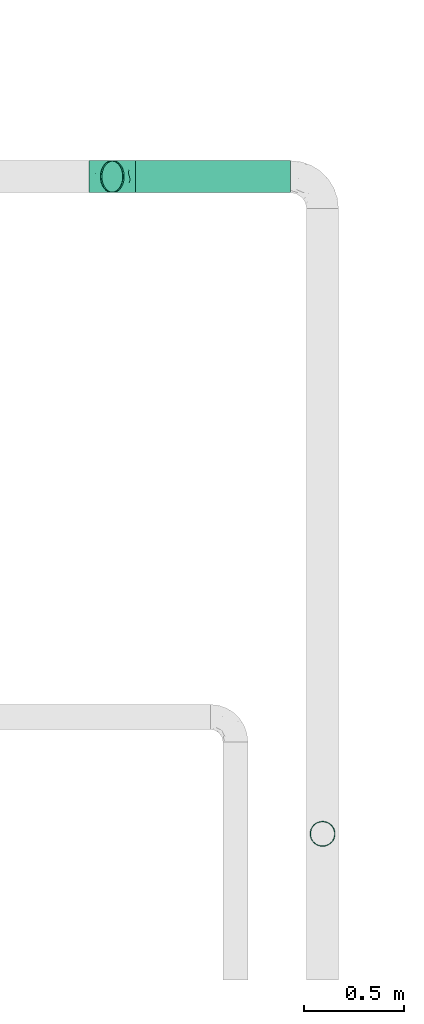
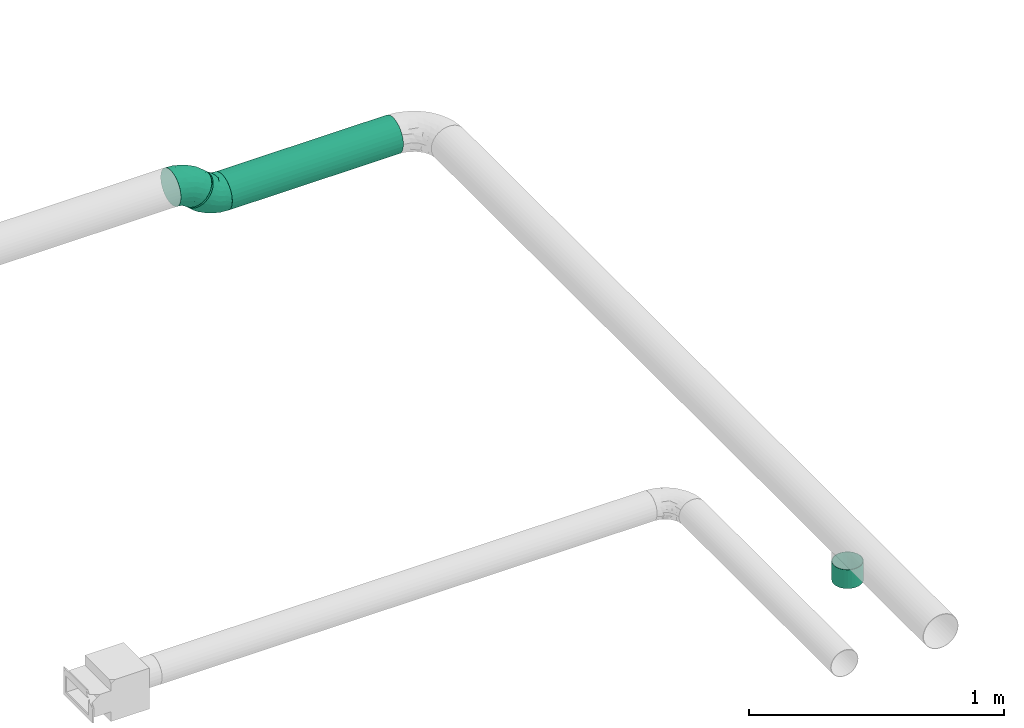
# One storey, part 2 of 10: 3 flow segments, 2 flow fittings.
"""IFC2X3 building model written with IfcOpenShell, lengths in millimetres."""

from ifc_helpers import new_model, entity, si_unit, converted_unit, derived_unit, direction, frame, origin_with_axes, origin_2d_with_axis, place, context, subcontext, project, spatial, hollow_circle, extrude, open_shell, surface_model, source, transform, mapped, type_object, element, save


model = new_model("IFC2X3")

# Units and contexts
model_context = context("Model", 3, precision=0.01, world=frame((0.0, 4.29681676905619e-09, 0.0)), true_north=direction((4.01073788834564e-13, 1.0)))
plan_context = context("Plan", 3, precision=0.01, world=frame((0.0, 4.29681676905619e-09, 0.0)), true_north=direction((4.01073788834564e-13, 1.0)))
body_context = subcontext(model_context, "Body", "Model", "MODEL_VIEW")
ifc_project = project(units=[converted_unit("PLANEANGLEUNIT", "DEGREE", entity("IfcPositiveLengthMeasure", 0.0174532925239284), si_unit("PLANEANGLEUNIT", "RADIAN"), dimensions=[0, 0, 0, 0, 0, 0, 0]), si_unit("AREAUNIT", "SQUARE_METRE"), si_unit("LENGTHUNIT", "METRE", prefix="MILLI"), si_unit("MASSUNIT", "GRAM", prefix="KILO"), si_unit("POWERUNIT", "WATT"), si_unit("PRESSUREUNIT", "PASCAL"), si_unit("FORCEUNIT", "NEWTON", prefix="KILO"), si_unit("ELECTRICCURRENTUNIT", "AMPERE"), si_unit("THERMODYNAMICTEMPERATUREUNIT", "DEGREE_CELSIUS"), si_unit("TIMEUNIT", "SECOND"), si_unit("VOLUMEUNIT", "CUBIC_METRE"), derived_unit("LINEARVELOCITYUNIT", [(si_unit("LENGTHUNIT", "METRE"), 1), (si_unit("TIMEUNIT", "SECOND"), -1)]), derived_unit("VOLUMETRICFLOWRATEUNIT", [(si_unit("VOLUMEUNIT", "CUBIC_METRE"), 1), (si_unit("TIMEUNIT", "SECOND"), -1)]), derived_unit("THERMALTRANSMITTANCEUNIT", [(si_unit("POWERUNIT", "WATT"), 1), (si_unit("THERMODYNAMICTEMPERATUREUNIT", "KELVIN"), -1), (si_unit("AREAUNIT", "SQUARE_METRE"), -1)])], contexts=[model_context, plan_context])

# Site, building, storey
site_placement = place(None, frame((0.0, -4.29681676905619e-09, 0.0), z_axis=(0.0, 0.0, 1.0), x_axis=(1.0, 0.0, 0.0)))
site = spatial("IfcSite", under=ifc_project, at=site_placement, CompositionType="ELEMENT")
building_placement = place(site_placement, frame((0.0, 4.29681676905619e-09, 0.0), z_axis=(0.0, 0.0, 1.0), x_axis=(1.0, 0.0, 0.0)))
building = spatial("IfcBuilding", under=site, at=building_placement, Name="mc-building", CompositionType="ELEMENT")
storey_placement = place(building_placement, frame((0.0, 0.0, 200300.0), z_axis=(0.0, 0.0, 1.0), x_axis=(1.0, 0.0, 0.0)))
storey = spatial("IfcBuildingStorey", under=building, at=storey_placement, Name="Nivå C", CompositionType="ELEMENT", Elevation=200300.0)

# Flow fittings
duct_fitting_type = type_object("IfcDuctFittingType", Name="magicirc_elbow_full_radius_001", PredefinedType="BEND")
shared_shape_1 = source(origin_with_axes(), body_context, "Body", "SurfaceModel", [
    surface_model("IfcShellBasedSurfaceModel", [(-66.27417, 20.70552, -77.27406), (-66.27417, 0.0, -80.0), (-66.27417, 56.56854, -56.56854), (-66.27417, 40.0, -69.28203), (-66.27417, 77.27406, -20.70552), (-66.27417, 69.28203, -40.0), (-66.27417, -56.56854, -56.56854), (-66.27417, -80.0, 0.0), (-66.27417, 69.28203, 40.0), (-66.27417, -40.0, -69.28203), (-66.27417, -20.70552, -77.27406), (-66.27417, -77.27406, -20.70552), (-66.27417, -69.28203, -40.0), (-66.27417, 80.0, 0.0), (-66.27417, 77.27406, 20.70552), (-66.27417, 20.70552, 77.27406), (-66.27417, 40.0, 69.28203), (-66.27417, 56.56854, 56.56854), (-66.27417, -56.56854, 56.56854), (-66.27417, -77.27406, 20.70552), (-66.27417, -69.28203, 40.0), (-66.27417, -40.0, 69.28203), (-66.27417, -20.70552, 77.27406), (-66.27417, 0.0, 80.0), (6.86292, 86.86291, -56.56854), (32.2219, 61.50393, -77.27406), (18.57864, 75.14718, -69.28203), (61.50393, 32.2219, -77.27406), (86.86291, 6.86292, -56.56854), (75.14718, 18.57864, -69.28203), (46.86291, 46.86291, -80.0), (95.85271, -2.12688, -40.0), (103.43146, -9.70563, 0.0), (101.50393, -7.7781, -20.70552), (18.57864, 75.14718, 69.28203), (32.2219, 61.50393, 77.27406), (-2.12688, 95.85271, 40.0), (6.86292, 86.86291, 56.56854), (86.86291, 6.86292, 56.56854), (61.50393, 32.2219, 77.27406), (75.14718, 18.57864, 69.28203), (46.86291, 46.86291, 80.0), (20.53801, -49.58315, 43.94225), (-18.89135, -45.75701, 61.51799), (-28.1118, -61.70391, 46.68644), (-34.33916, -76.37202, 15.31927), (-19.45249, -75.38847, 0.0), (42.93526, 1.14729, 72.97961), (-31.17107, -29.54855, 72.97961), (8.44431, -20.38638, 71.81588), (-32.22322, 32.65541, 74.8719), (-25.21463, -8.32436, 78.89345), (-7.39188, 17.84557, 79.76455), (-39.53449, 10.89577, 79.54534), (20.25064, 35.65958, 79.54534), (95.85271, -2.12688, 40.0), (63.5093, -23.75321, 46.68644), (-15.37255, -69.57828, 27.42176), (-47.4808, 49.0718, 64.37855), (-4.72632, -70.89373, 12.88112), (23.62666, -58.07001, 25.35922), (-37.02413, 66.40501, 50.62929), (-32.89771, 79.42211, 33.20568), (-30.75019, 86.28851, 16.99044), (14.0857, -34.0059, 62.45761), (45.71329, -18.99689, 61.51799), (-22.57689, 54.50543, 65.58295), (69.34551, -36.41796, 14.42051), (60.06931, -38.32924, 27.42176), (45.5871, -51.14622, 12.93716), (-1.12501, 68.27299, 64.37855), (101.50393, -7.7781, 20.70552), (23.71565, 11.94322, 78.89345), (1.50068, 47.12305, 74.81246), (-7.7781, 101.50393, 20.70552), (-13.79239, 73.20024, 54.49623), (-35.65949, 86.08964, 0.0), (-9.70563, 103.43146, 0.0), (25.56985, -61.73109, 0.0), (67.06269, -39.5527, 0.0), (-25.21463, -8.32436, -78.89345), (60.06931, -38.32924, -27.42176), (78.28463, -29.72172, -15.31927), (53.47145, -46.78742, -12.88112), (23.71565, 11.94322, -78.89345), (-39.53449, 10.89577, -79.54534), (-42.0077, 61.51307, -54.49623), (-32.89772, 79.42211, -33.20568), (45.71329, -18.99689, -61.51799), (-20.77542, 73.13545, -50.62928), (-39.27153, 82.75886, -16.99044), (-0.30561, 45.87612, -74.8719), (-23.28329, -74.78606, -14.42051), (-15.37255, -69.57828, -27.42176), (3.93089, -68.40079, -12.93716), (-34.38217, 32.25989, -74.81247), (-18.89135, -45.75701, -61.51799), (-28.1118, -61.70391, -46.68644), (8.44432, -20.38638, -71.81588), (-22.57689, 54.50543, -65.58295), (-47.4808, 49.0718, -64.37855), (24.35512, -57.76827, -25.35922), (-7.39188, 17.84557, -79.76455), (14.0857, -34.0059, -62.45761), (20.53801, -49.58315, -43.94225), (-31.17107, -29.54855, -72.97961), (-7.7781, 101.50393, -20.70552), (-2.12688, 95.85271, -40.0), (-1.12501, 68.27299, -64.37855), (20.25064, 35.65958, -79.54534), (42.93526, 1.14729, -72.97961), (63.5093, -23.75321, -46.68644)], [open_shell([[[0, 1, 2]], [[3, 0, 2]], [[4, 5, 2]], [[6, 2, 1]], [[2, 7, 8]], [[9, 6, 10]], [[6, 1, 10]], [[11, 7, 12]], [[6, 12, 7]], [[6, 7, 2]], [[13, 4, 2]], [[8, 14, 13]], [[7, 15, 8]], [[8, 15, 16]], [[17, 8, 16]], [[18, 15, 7]], [[19, 20, 7]], [[7, 20, 18]], [[21, 22, 18]], [[22, 15, 18]], [[15, 22, 23]], [[8, 13, 2]], [[24, 25, 26]], [[27, 28, 29]], [[27, 30, 28]], [[31, 32, 33]], [[34, 35, 36]], [[34, 36, 37]], [[38, 39, 40]], [[41, 39, 35]], [[42, 43, 44]], [[45, 7, 46]], [[40, 39, 47]], [[21, 18, 43]], [[48, 43, 49]], [[44, 43, 18]], [[16, 15, 50]], [[22, 21, 48]], [[51, 52, 53]], [[41, 35, 54]], [[55, 38, 56]], [[23, 22, 51]], [[19, 45, 57]], [[17, 16, 58]], [[57, 59, 60]], [[8, 61, 62]], [[15, 23, 53]], [[57, 45, 59]], [[18, 20, 44]], [[62, 63, 14]], [[19, 57, 20]], [[13, 14, 63]], [[14, 8, 62]], [[64, 42, 65]], [[58, 50, 66]], [[67, 68, 69]], [[42, 57, 60]], [[34, 37, 70]], [[38, 40, 65]], [[58, 61, 17]], [[71, 55, 68]], [[41, 54, 72]], [[42, 56, 65]], [[38, 65, 56]], [[20, 57, 44]], [[65, 40, 47]], [[42, 44, 57]], [[32, 71, 67]], [[68, 55, 56]], [[52, 54, 73]], [[36, 74, 62]], [[62, 75, 36]], [[56, 42, 68]], [[62, 74, 63]], [[8, 17, 61]], [[76, 63, 77]], [[47, 72, 49]], [[66, 50, 73]], [[72, 51, 49]], [[34, 73, 35]], [[51, 72, 52]], [[62, 61, 75]], [[39, 41, 72]], [[48, 51, 22]], [[53, 50, 15]], [[68, 60, 69]], [[66, 70, 75]], [[43, 64, 49]], [[73, 34, 70]], [[52, 73, 50]], [[43, 48, 21]], [[51, 48, 49]], [[72, 47, 39]], [[65, 47, 49]], [[51, 53, 23]], [[50, 53, 52]], [[73, 54, 35]], [[72, 54, 52]], [[50, 58, 16]], [[61, 58, 66]], [[75, 70, 37]], [[73, 70, 66]], [[36, 75, 37]], [[66, 75, 61]], [[7, 45, 19]], [[59, 45, 46]], [[46, 78, 59]], [[78, 69, 60]], [[78, 60, 59]], [[68, 42, 60]], [[78, 79, 69]], [[67, 69, 79]], [[32, 67, 79]], [[71, 68, 67]], [[42, 64, 43]], [[65, 49, 64]], [[77, 63, 74]], [[63, 76, 13]], [[80, 10, 1]], [[81, 82, 83]], [[30, 27, 84]], [[0, 85, 1]], [[86, 5, 87]], [[29, 28, 88]], [[89, 86, 87]], [[33, 81, 31]], [[4, 90, 87]], [[26, 25, 91]], [[92, 93, 94]], [[3, 95, 0]], [[6, 96, 97]], [[80, 84, 98]], [[7, 11, 92]], [[99, 100, 86]], [[101, 94, 93]], [[102, 85, 95]], [[6, 9, 96]], [[103, 104, 96]], [[84, 80, 102]], [[93, 11, 12]], [[105, 9, 10]], [[6, 97, 12]], [[106, 107, 87]], [[107, 24, 89]], [[13, 76, 90]], [[108, 89, 24]], [[77, 106, 90]], [[109, 91, 25]], [[24, 26, 108]], [[87, 5, 4]], [[107, 89, 87]], [[105, 96, 9]], [[99, 108, 91]], [[85, 80, 1]], [[99, 91, 95]], [[2, 100, 3]], [[33, 82, 81]], [[109, 25, 30]], [[110, 27, 29]], [[81, 83, 101]], [[28, 111, 88]], [[98, 110, 88]], [[28, 31, 111]], [[102, 109, 84]], [[111, 104, 88]], [[110, 84, 27]], [[79, 82, 32]], [[104, 111, 81]], [[105, 80, 98]], [[81, 101, 104]], [[97, 104, 93]], [[88, 103, 98]], [[104, 97, 96]], [[106, 87, 90]], [[93, 12, 97]], [[31, 81, 111]], [[95, 3, 100]], [[102, 95, 91]], [[80, 105, 10]], [[96, 105, 98]], [[88, 110, 29]], [[84, 110, 98]], [[95, 85, 0]], [[80, 85, 102]], [[84, 109, 30]], [[91, 109, 102]], [[86, 100, 2]], [[95, 100, 99]], [[5, 86, 2]], [[99, 86, 89]], [[91, 108, 26]], [[89, 108, 99]], [[32, 82, 33]], [[83, 82, 79]], [[79, 78, 83]], [[78, 94, 101]], [[78, 101, 83]], [[93, 104, 101]], [[78, 46, 94]], [[92, 94, 46]], [[7, 92, 46]], [[11, 93, 92]], [[104, 103, 88]], [[96, 98, 103]], [[13, 90, 4]], [[90, 76, 77]], [[24, 30, 25]], [[24, 107, 106]], [[30, 24, 28]], [[31, 28, 24]], [[38, 35, 39]], [[24, 36, 31]], [[38, 32, 31]], [[24, 106, 36]], [[36, 106, 74]], [[31, 36, 35]], [[31, 35, 38]], [[71, 38, 55]], [[32, 38, 71]], [[74, 106, 77]]])]),
])
for number, where, z_axis, x_axis, name in (
    (1, (519841.68665, 404861.0, 2980.0), (0.0, 1.0, 0.0), (1.0, 0.0, 0.0), "magicirc_elbow_full_radius_001"),
    (2, (519941.68665, 404861.0, 2880.0), (0.0, -1.0, 0.0), (0.707106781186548, 0.0, -0.707106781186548), "magicirc_elbow_full_radius_001"),
):
    element("IfcFlowFitting", number, at=place(storey_placement, frame(where, z_axis=z_axis, x_axis=x_axis)), inside=storey, type_object=duct_fitting_type, Name=name, context=body_context, shape_type="MappedRepresentation", body=[
        mapped(shared_shape_1, transform((0.0, 0.0, 0.0), scale=1.0)),
    ])

# Flow segments
duct_segment_type_1 = type_object("IfcDuctSegmentType", Name="KK003T - Spiro kanaler, Stålrør", PredefinedType="RIGIDSEGMENT")
shared_shape_2 = source(origin_with_axes(), body_context, "Body", "SweptSolid", [
    extrude(hollow_circle(Radius=62.5, WallThickness=2.0, at=origin_2d_with_axis()), frame((0.0, 0.0, 0.0), z_axis=(1.0, 0.0, 0.0), x_axis=(0.0, 1.0, 0.0)), (0.0, 0.0, 1.0), 90.0),
])
flow_segment_1_placement = place(storey_placement, frame((520942.6375, 401576.16875, 2775.0), z_axis=(-1.0, 0.0, 0.0), x_axis=(0.0, 0.0, -1.0)))
element("IfcFlowSegment", 3, at=flow_segment_1_placement, inside=storey, type_object=duct_segment_type_1, Name="KK003T - Spiro kanaler, Stålrør", context=body_context, shape_type="MappedRepresentation", body=[
    mapped(shared_shape_2, transform((0.0, 0.0, 0.0), scale=1.0)),
])
duct_segment_type_2 = type_object("IfcDuctSegmentType", Name="KK001T - Spiro kanaler, Forsinket stål", PredefinedType="RIGIDSEGMENT")
shared_shape_3 = source(origin_with_axes(), body_context, "Body", "SweptSolid", [
    extrude(hollow_circle(Radius=80.0, WallThickness=2.0, at=origin_2d_with_axis()), frame((0.0, 0.0, 0.0), z_axis=(1.0, 0.0, 0.0), x_axis=(0.0, 1.0, 0.0)), (0.0, 0.0, 1.0), 774.7),
])
flow_segment_2_placement = place(storey_placement, frame((520007.96082, 404861.0, 2880.0), z_axis=(0.0, 0.0, 1.0), x_axis=(1.0, 0.0, 0.0)))
element("IfcFlowSegment", 4, at=flow_segment_2_placement, inside=storey, type_object=duct_segment_type_2, Name="KK001T - Spiro kanaler, Forsinket stål", context=body_context, shape_type="MappedRepresentation", body=[
    mapped(shared_shape_3, transform((0.0, 0.0, 0.0), scale=1.0)),
])
shared_shape_4 = source(origin_with_axes(), body_context, "Body", "SweptSolid", [
    extrude(hollow_circle(Radius=80.0, WallThickness=2.0, at=origin_2d_with_axis()), frame((0.0, 0.0, 0.0), z_axis=(1.0, 0.0, 0.0), x_axis=(0.0, 1.0, 0.0)), (0.0, 0.0, 1.0), 8.9),
])
flow_segment_3_placement = place(storey_placement, frame((519888.54956, 404861.0, 2933.13709), z_axis=(0.707106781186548, 0.0, 0.707106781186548), x_axis=(0.707106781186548, 0.0, -0.707106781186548)))
element("IfcFlowSegment", 5, at=flow_segment_3_placement, inside=storey, type_object=duct_segment_type_2, Name="KK001T - Spiro kanaler, Forsinket stål", context=body_context, shape_type="MappedRepresentation", body=[
    mapped(shared_shape_4, transform((0.0, 0.0, 0.0), scale=1.0)),
])

save(model, "model.ifc")
